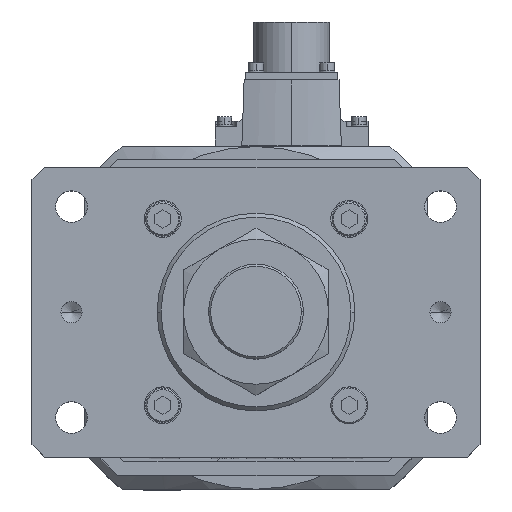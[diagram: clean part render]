
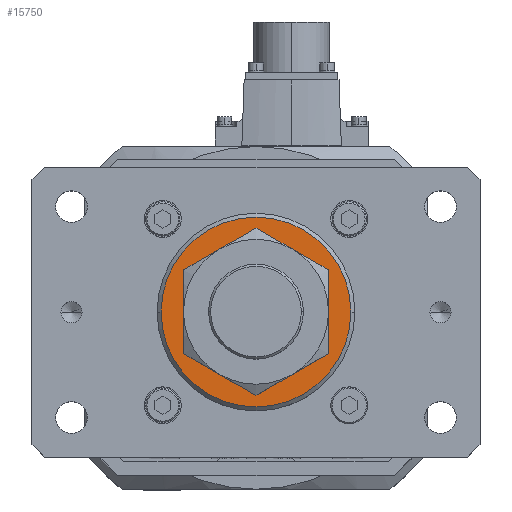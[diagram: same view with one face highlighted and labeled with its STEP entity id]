
A CAD part, top view. The second image highlights one B-rep face of the part: STEP entity #15750.
In plain terms, the highlighted planar face has unit normal (0, 0, 1).
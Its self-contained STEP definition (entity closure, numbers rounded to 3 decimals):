
#415 = CIRCLE ( 'NONE', #26441, 23. ) ;
#1868 = AXIS2_PLACEMENT_3D ( 'NONE', #3215, #22791, #34397 ) ;
#2024 = ORIENTED_EDGE ( 'NONE', *, *, #17507, .T. ) ;
#2892 = EDGE_LOOP ( 'NONE', ( #24486, #12263 ) ) ;
#3215 = CARTESIAN_POINT ( 'NONE',  ( 0., 0., 996. ) ) ;
#8083 = EDGE_CURVE ( 'NONE', #34618, #24543, #36166, .T. ) ;
#10635 = CARTESIAN_POINT ( 'NONE',  ( -23., 0., 996. ) ) ;
#11313 = CARTESIAN_POINT ( 'NONE',  ( 23., 0., 996. ) ) ;
#12263 = ORIENTED_EDGE ( 'NONE', *, *, #23698, .T. ) ;
#12770 = CARTESIAN_POINT ( 'NONE',  ( 36., 0., 996. ) ) ;
#12826 = VERTEX_POINT ( 'NONE', #11313 ) ;
#14783 = CARTESIAN_POINT ( 'NONE',  ( 0., 0., 996. ) ) ;
#15750 = ADVANCED_FACE ( 'NONE', ( #17937, #25574 ), #34928, .T. ) ;
#16433 = DIRECTION ( 'NONE',  ( 1., 0., 0. ) ) ;
#17215 = VERTEX_POINT ( 'NONE', #10635 ) ;
#17507 = EDGE_CURVE ( 'NONE', #12826, #17215, #26793, .T. ) ;
#17828 = DIRECTION ( 'NONE',  ( 1., 0., 0. ) ) ;
#17937 = FACE_BOUND ( 'NONE', #20359, .T. ) ;
#20197 = DIRECTION ( 'NONE',  ( 0., 0., 1. ) ) ;
#20314 = CIRCLE ( 'NONE', #20521, 36. ) ;
#20359 = EDGE_LOOP ( 'NONE', ( #2024, #28048 ) ) ;
#20521 = AXIS2_PLACEMENT_3D ( 'NONE', #28219, #27840, #16433 ) ;
#20568 = CARTESIAN_POINT ( 'NONE',  ( 0., 0., 996. ) ) ;
#20883 = DIRECTION ( 'NONE',  ( 0., 0., -1. ) ) ;
#21815 = EDGE_CURVE ( 'NONE', #17215, #12826, #415, .T. ) ;
#22791 = DIRECTION ( 'NONE',  ( 0., 0., 1. ) ) ;
#23155 = DIRECTION ( 'NONE',  ( 1., 0., 0. ) ) ;
#23435 = CARTESIAN_POINT ( 'NONE',  ( 0., 0., 996. ) ) ;
#23698 = EDGE_CURVE ( 'NONE', #24543, #34618, #20314, .T. ) ;
#24486 = ORIENTED_EDGE ( 'NONE', *, *, #8083, .T. ) ;
#24543 = VERTEX_POINT ( 'NONE', #12770 ) ;
#25574 = FACE_OUTER_BOUND ( 'NONE', #2892, .T. ) ;
#26441 = AXIS2_PLACEMENT_3D ( 'NONE', #14783, #20883, #23155 ) ;
#26793 = CIRCLE ( 'NONE', #28967, 23. ) ;
#27840 = DIRECTION ( 'NONE',  ( 0., 0., 1. ) ) ;
#28048 = ORIENTED_EDGE ( 'NONE', *, *, #21815, .T. ) ;
#28219 = CARTESIAN_POINT ( 'NONE',  ( 0., 0., 996. ) ) ;
#28967 = AXIS2_PLACEMENT_3D ( 'NONE', #20568, #32316, #17828 ) ;
#29192 = DIRECTION ( 'NONE',  ( 1., 0., 0. ) ) ;
#29539 = CARTESIAN_POINT ( 'NONE',  ( -36., 0., 996. ) ) ;
#30838 = AXIS2_PLACEMENT_3D ( 'NONE', #23435, #20197, #29192 ) ;
#32316 = DIRECTION ( 'NONE',  ( 0., 0., -1. ) ) ;
#34397 = DIRECTION ( 'NONE',  ( 1., 0., 0. ) ) ;
#34618 = VERTEX_POINT ( 'NONE', #29539 ) ;
#34928 = PLANE ( 'NONE',  #30838 ) ;
#36166 = CIRCLE ( 'NONE', #1868, 36. ) ;
